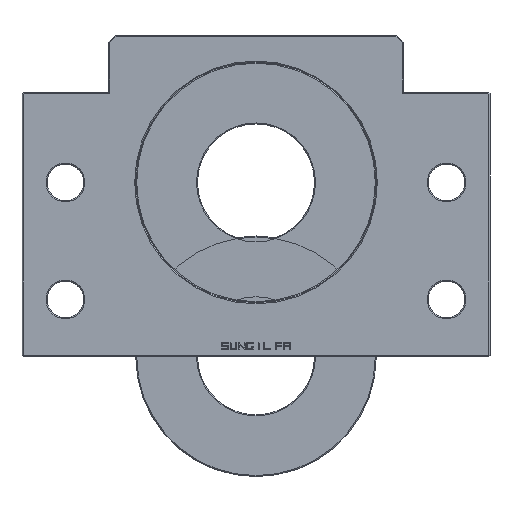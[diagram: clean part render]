
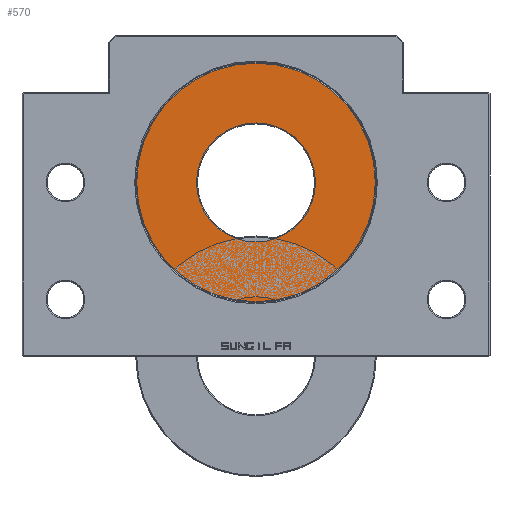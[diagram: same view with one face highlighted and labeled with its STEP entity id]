
A CAD part, front view. The second image highlights one B-rep face of the part: STEP entity #570.
In plain terms, the highlighted planar face has unit normal (0, -1, 0).
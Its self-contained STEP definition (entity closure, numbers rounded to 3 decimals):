
#570 = ADVANCED_FACE( '', ( #1444, #1445 ), #1446, .F. );
#1444 = FACE_BOUND( '', #2321, .T. );
#1445 = FACE_OUTER_BOUND( '', #2322, .T. );
#1446 = PLANE( '', #2323 );
#2321 = EDGE_LOOP( '', ( #5590 ) );
#2322 = EDGE_LOOP( '', ( #5591 ) );
#2323 = AXIS2_PLACEMENT_3D( '', #5592, #5593, #5594 );
#5590 = ORIENTED_EDGE( '', *, *, #6634, .T. );
#5591 = ORIENTED_EDGE( '', *, *, #6637, .T. );
#5592 = CARTESIAN_POINT( '', ( 0., -8.5, 0. ) );
#5593 = DIRECTION( '', ( 0., 1., 0. ) );
#5594 = DIRECTION( '', ( 0., 0., 1. ) );
#6634 = EDGE_CURVE( '', #8366, #8366, #8367, .T. );
#6637 = EDGE_CURVE( '', #8372, #8372, #8373, .F. );
#8366 = VERTEX_POINT( '', #11474 );
#8367 = CIRCLE( '', #11475, 17.8 );
#8372 = VERTEX_POINT( '', #11480 );
#8373 = CIRCLE( '', #11481, 35.7 );
#11474 = CARTESIAN_POINT( '', ( 0., -8.5, 17.8 ) );
#11475 = AXIS2_PLACEMENT_3D( '', #13192, #13193, #13194 );
#11480 = CARTESIAN_POINT( '', ( 0., -8.5, 35.7 ) );
#11481 = AXIS2_PLACEMENT_3D( '', #13201, #13202, #13203 );
#13192 = CARTESIAN_POINT( '', ( 0., -8.5, 0. ) );
#13193 = DIRECTION( '', ( 0., 1., 0. ) );
#13194 = DIRECTION( '', ( 0., 0., 1. ) );
#13201 = CARTESIAN_POINT( '', ( 0., -8.5, 0. ) );
#13202 = DIRECTION( '', ( 0., 1., 0. ) );
#13203 = DIRECTION( '', ( 0., 0., 1. ) );
